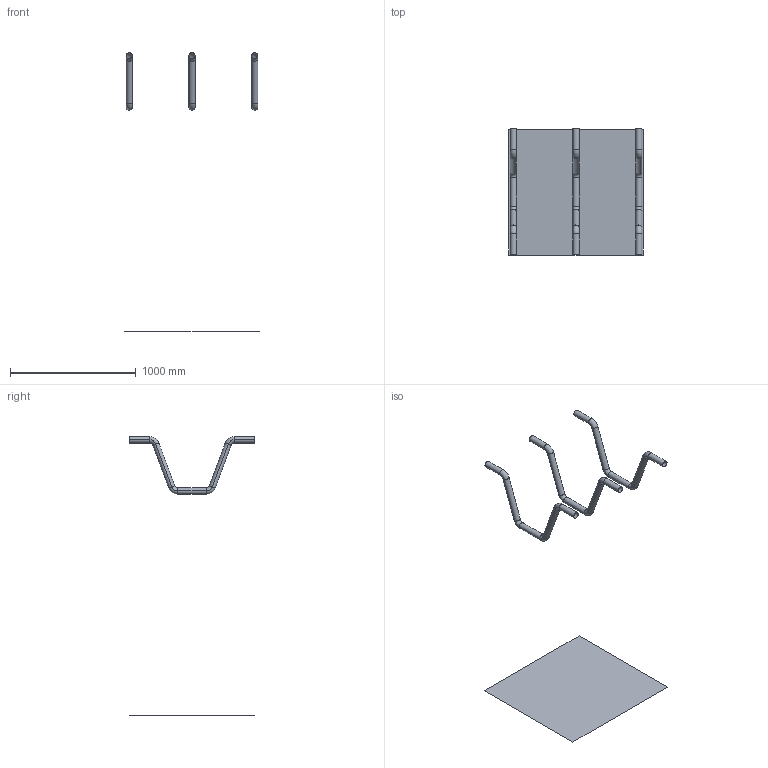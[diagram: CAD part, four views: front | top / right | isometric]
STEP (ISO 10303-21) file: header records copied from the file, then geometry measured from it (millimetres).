
FILE_DESCRIPTION(('CATIA V5 STEP Exchange'),'2;1');
FILE_NAME('C:\_Andres\UNIVERSIDAD\IQS\ASIGNATURAS\DAO\EXF\EXF-16172c\2inicio\Carreras_Buscato_Ej08_v7.stp','2017-03-05T21:54:49+00:00',('none'),('none'),'CATIA Version 5-6 Release 2014 SP1 HF18','CATIA V5 STEP AP203','none');
FILE_SCHEMA(('CONFIG_CONTROL_DESIGN'));
Length unit declared in the file: millimetre
Products named in the file (1): Carreras_Buscato_Ej08_v7
Bounding box: 1070 x 1000 x 2218 mm (x, y, z)
Surface area: 1792023 mm2 (no closed solid volume)
Topology: 0 solids, 4 shells, 55 faces, 118 edges, 64 vertices
Faces by surface type: cylinder 30, torus 24, plane 1
Entity records: 1283 total; most frequent: ORIENTED_EDGE 220, CARTESIAN_POINT 208, DIRECTION 168, EDGE_CURVE 118, AXIS2_PLACEMENT_3D 110, CIRCLE 84, VERTEX_POINT 64, ADVANCED_FACE 55
